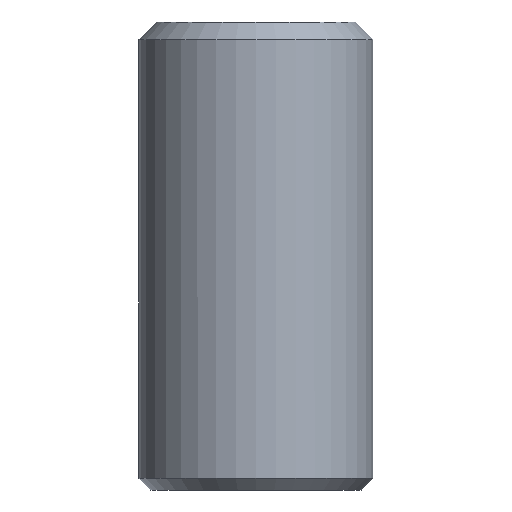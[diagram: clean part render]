
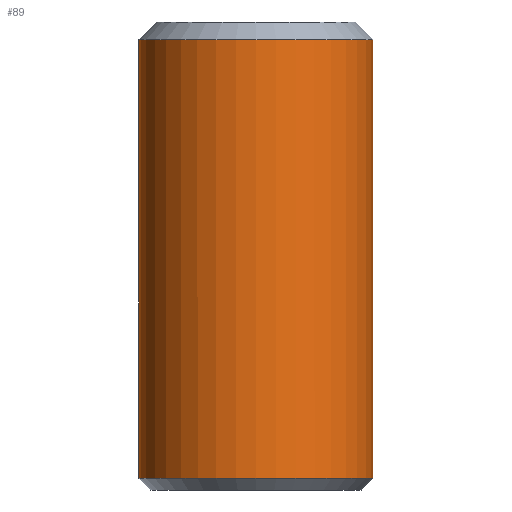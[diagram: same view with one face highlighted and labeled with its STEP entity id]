
A CAD part, front view. The second image highlights one B-rep face of the part: STEP entity #89.
In plain terms, the highlighted cylindrical face has radius 10 mm (diameter 20 mm), a full revolution.
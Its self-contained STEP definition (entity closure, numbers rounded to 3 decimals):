
#23=FACE_OUTER_BOUND('',#29,.T.);
#29=EDGE_LOOP('',(#73,#74,#75,#76));
#37=LINE('',#165,#41);
#41=VECTOR('',#139,10.);
#45=CIRCLE('',#111,10.);
#47=CIRCLE('',#114,10.);
#51=VERTEX_POINT('',#157);
#53=VERTEX_POINT('',#163);
#58=EDGE_CURVE('',#51,#51,#45,.T.);
#61=EDGE_CURVE('',#53,#53,#47,.T.);
#62=EDGE_CURVE('',#53,#51,#37,.T.);
#73=ORIENTED_EDGE('',*,*,#61,.F.);
#74=ORIENTED_EDGE('',*,*,#62,.T.);
#75=ORIENTED_EDGE('',*,*,#58,.F.);
#76=ORIENTED_EDGE('',*,*,#62,.F.);
#86=CYLINDRICAL_SURFACE('',#113,10.);
#89=ADVANCED_FACE('',(#23),#86,.T.);
#111=AXIS2_PLACEMENT_3D('',#158,#130,#131);
#113=AXIS2_PLACEMENT_3D('',#162,#135,#136);
#114=AXIS2_PLACEMENT_3D('',#164,#137,#138);
#130=DIRECTION('center_axis',(0.,0.,-1.));
#131=DIRECTION('ref_axis',(-1.,0.,0.));
#135=DIRECTION('center_axis',(0.,0.,1.));
#136=DIRECTION('ref_axis',(-1.,0.,0.));
#137=DIRECTION('center_axis',(0.,0.,1.));
#138=DIRECTION('ref_axis',(-1.,0.,0.));
#139=DIRECTION('',(0.,0.,-1.));
#157=CARTESIAN_POINT('',(-85.,95.,5.));
#158=CARTESIAN_POINT('Origin',(-95.,95.,5.));
#162=CARTESIAN_POINT('Origin',(-95.,95.,4.));
#163=CARTESIAN_POINT('',(-85.,95.,42.5));
#164=CARTESIAN_POINT('Origin',(-95.,95.,42.5));
#165=CARTESIAN_POINT('',(-85.,95.,4.));
